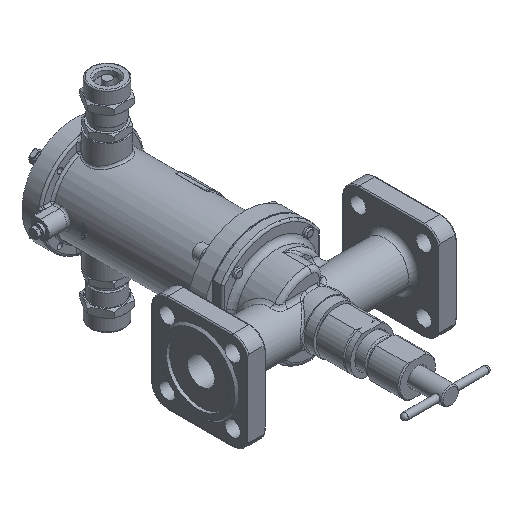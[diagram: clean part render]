
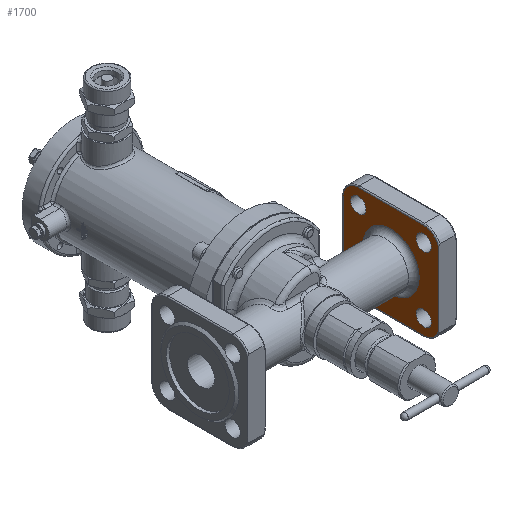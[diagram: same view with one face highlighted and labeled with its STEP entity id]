
A CAD part, isometric view. The second image highlights one B-rep face of the part: STEP entity #1700.
In plain terms, the highlighted planar face has unit normal (-1, 0, 0).
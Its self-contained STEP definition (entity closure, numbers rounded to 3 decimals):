
#1700=ADVANCED_FACE('',(#18959,#18961,#18963,#18965,#18967,#18969),#18971,.T.);
#18959=FACE_BOUND('',#18960,.T.);
#18960=EDGE_LOOP('',(#29721));
#18961=FACE_BOUND('',#18962,.T.);
#18962=EDGE_LOOP('',(#29722));
#18963=FACE_BOUND('',#18964,.T.);
#18964=EDGE_LOOP('',(#29723));
#18965=FACE_BOUND('',#18966,.T.);
#18966=EDGE_LOOP('',(#29724));
#18967=FACE_BOUND('',#18968,.T.);
#18968=EDGE_LOOP('',(#29725));
#18969=FACE_OUTER_BOUND('',#18970,.T.);
#18970=EDGE_LOOP('',(#29726,#29727,#29728,#29729,#29730,#29731,#29732,#29733));
#18971=PLANE('',#18972);
#18972=AXIS2_PLACEMENT_3D('',#18973,#18974,#18975);
#18973=CARTESIAN_POINT('',(80.,0.,-0.));
#18974=DIRECTION('',(-1.,0.,0.));
#18975=DIRECTION('',(0.,1.,0.));
#29721=ORIENTED_EDGE('',*,*,#37227,.F.);
#29722=ORIENTED_EDGE('',*,*,#37274,.T.);
#29723=ORIENTED_EDGE('',*,*,#37275,.T.);
#29724=ORIENTED_EDGE('',*,*,#37276,.T.);
#29725=ORIENTED_EDGE('',*,*,#37277,.T.);
#29726=ORIENTED_EDGE('',*,*,#37278,.T.);
#29727=ORIENTED_EDGE('',*,*,#37279,.T.);
#29728=ORIENTED_EDGE('',*,*,#37280,.T.);
#29729=ORIENTED_EDGE('',*,*,#37281,.T.);
#29730=ORIENTED_EDGE('',*,*,#37282,.T.);
#29731=ORIENTED_EDGE('',*,*,#37283,.T.);
#29732=ORIENTED_EDGE('',*,*,#37284,.T.);
#29733=ORIENTED_EDGE('',*,*,#37285,.T.);
#37227=EDGE_CURVE('',#44920,#44920,#44922,.T.);
#37274=EDGE_CURVE('',#44995,#44995,#44996,.T.);
#37275=EDGE_CURVE('',#44997,#44997,#44998,.T.);
#37276=EDGE_CURVE('',#44999,#44999,#45000,.T.);
#37277=EDGE_CURVE('',#45001,#45001,#45002,.T.);
#37278=EDGE_CURVE('',#45003,#45004,#45005,.F.);
#37279=EDGE_CURVE('',#45004,#45006,#45007,.F.);
#37280=EDGE_CURVE('',#45006,#45008,#45009,.T.);
#37281=EDGE_CURVE('',#45008,#45010,#45011,.F.);
#37282=EDGE_CURVE('',#45010,#45012,#45013,.T.);
#37283=EDGE_CURVE('',#45012,#45014,#45015,.F.);
#37284=EDGE_CURVE('',#45014,#45016,#45017,.T.);
#37285=EDGE_CURVE('',#45016,#45003,#45018,.F.);
#44920=VERTEX_POINT('',#70532);
#44922=CIRCLE('',#70537,26.);
#44995=VERTEX_POINT('',#70958);
#44996=CIRCLE('',#70959,7.);
#44997=VERTEX_POINT('',#70963);
#44998=CIRCLE('',#70964,7.);
#44999=VERTEX_POINT('',#70968);
#45000=CIRCLE('',#70969,7.);
#45001=VERTEX_POINT('',#70973);
#45002=CIRCLE('',#70974,7.);
#45003=VERTEX_POINT('',#70978);
#45004=VERTEX_POINT('',#70979);
#45005=LINE('',#70980,#70981);
#45006=VERTEX_POINT('',#70983);
#45007=CIRCLE('',#70984,14.);
#45008=VERTEX_POINT('',#70988);
#45009=LINE('',#70989,#70990);
#45010=VERTEX_POINT('',#70992);
#45011=CIRCLE('',#70993,14.);
#45012=VERTEX_POINT('',#70997);
#45013=LINE('',#70998,#70999);
#45014=VERTEX_POINT('',#71001);
#45015=CIRCLE('',#71002,14.);
#45016=VERTEX_POINT('',#71006);
#45017=LINE('',#71007,#71008);
#45018=CIRCLE('',#71010,14.);
#70532=CARTESIAN_POINT('',(80.,26.,0.));
#70537=AXIS2_PLACEMENT_3D('',#70538,#70539,#70540);
#70538=CARTESIAN_POINT('',(80.,0.,-0.));
#70539=DIRECTION('',(-1.,0.,0.));
#70540=DIRECTION('',(0.,1.,0.));
#70958=CARTESIAN_POINT('',(80.,30.052,37.052));
#70959=AXIS2_PLACEMENT_3D('',#70960,#70961,#70962);
#70960=CARTESIAN_POINT('',(80.,30.052,30.052));
#70961=DIRECTION('',(1.,0.,-0.));
#70962=DIRECTION('',(0.,0.,1.));
#70963=CARTESIAN_POINT('',(80.,-30.052,37.052));
#70964=AXIS2_PLACEMENT_3D('',#70965,#70966,#70967);
#70965=CARTESIAN_POINT('',(80.,-30.052,30.052));
#70966=DIRECTION('',(1.,0.,-0.));
#70967=DIRECTION('',(0.,0.,1.));
#70968=CARTESIAN_POINT('',(80.,-30.052,-23.052));
#70969=AXIS2_PLACEMENT_3D('',#70970,#70971,#70972);
#70970=CARTESIAN_POINT('',(80.,-30.052,-30.052));
#70971=DIRECTION('',(1.,0.,-0.));
#70972=DIRECTION('',(0.,0.,1.));
#70973=CARTESIAN_POINT('',(80.,30.052,-23.052));
#70974=AXIS2_PLACEMENT_3D('',#70975,#70976,#70977);
#70975=CARTESIAN_POINT('',(80.,30.052,-30.052));
#70976=DIRECTION('',(1.,0.,-0.));
#70977=DIRECTION('',(0.,0.,1.));
#70978=CARTESIAN_POINT('',(80.,-44.,-30.));
#70979=CARTESIAN_POINT('',(80.,-44.,30.));
#70980=CARTESIAN_POINT('',(80.,-44.,30.));
#70981=VECTOR('',#70982,1.);
#70982=DIRECTION('',(0.,0.,-1.));
#70983=CARTESIAN_POINT('',(80.,-30.,44.));
#70984=AXIS2_PLACEMENT_3D('',#70985,#70986,#70987);
#70985=CARTESIAN_POINT('',(80.,-30.,30.));
#70986=DIRECTION('',(1.,0.,0.));
#70987=DIRECTION('',(0.,0.,1.));
#70988=CARTESIAN_POINT('',(80.,30.,44.));
#70989=CARTESIAN_POINT('',(80.,-30.,44.));
#70990=VECTOR('',#70991,1.);
#70991=DIRECTION('',(0.,1.,0.));
#70992=CARTESIAN_POINT('',(80.,44.,30.));
#70993=AXIS2_PLACEMENT_3D('',#70994,#70995,#70996);
#70994=CARTESIAN_POINT('',(80.,30.,30.));
#70995=DIRECTION('',(1.,0.,0.));
#70996=DIRECTION('',(0.,1.,0.));
#70997=CARTESIAN_POINT('',(80.,44.,-30.));
#70998=CARTESIAN_POINT('',(80.,44.,30.));
#70999=VECTOR('',#71000,1.);
#71000=DIRECTION('',(0.,0.,-1.));
#71001=CARTESIAN_POINT('',(80.,30.,-44.));
#71002=AXIS2_PLACEMENT_3D('',#71003,#71004,#71005);
#71003=CARTESIAN_POINT('',(80.,30.,-30.));
#71004=DIRECTION('',(1.,0.,0.));
#71005=DIRECTION('',(0.,0.,-1.));
#71006=CARTESIAN_POINT('',(80.,-30.,-44.));
#71007=CARTESIAN_POINT('',(80.,30.,-44.));
#71008=VECTOR('',#71009,1.);
#71009=DIRECTION('',(0.,-1.,0.));
#71010=AXIS2_PLACEMENT_3D('',#71011,#71012,#71013);
#71011=CARTESIAN_POINT('',(80.,-30.,-30.));
#71012=DIRECTION('',(1.,0.,0.));
#71013=DIRECTION('',(0.,-1.,0.));
